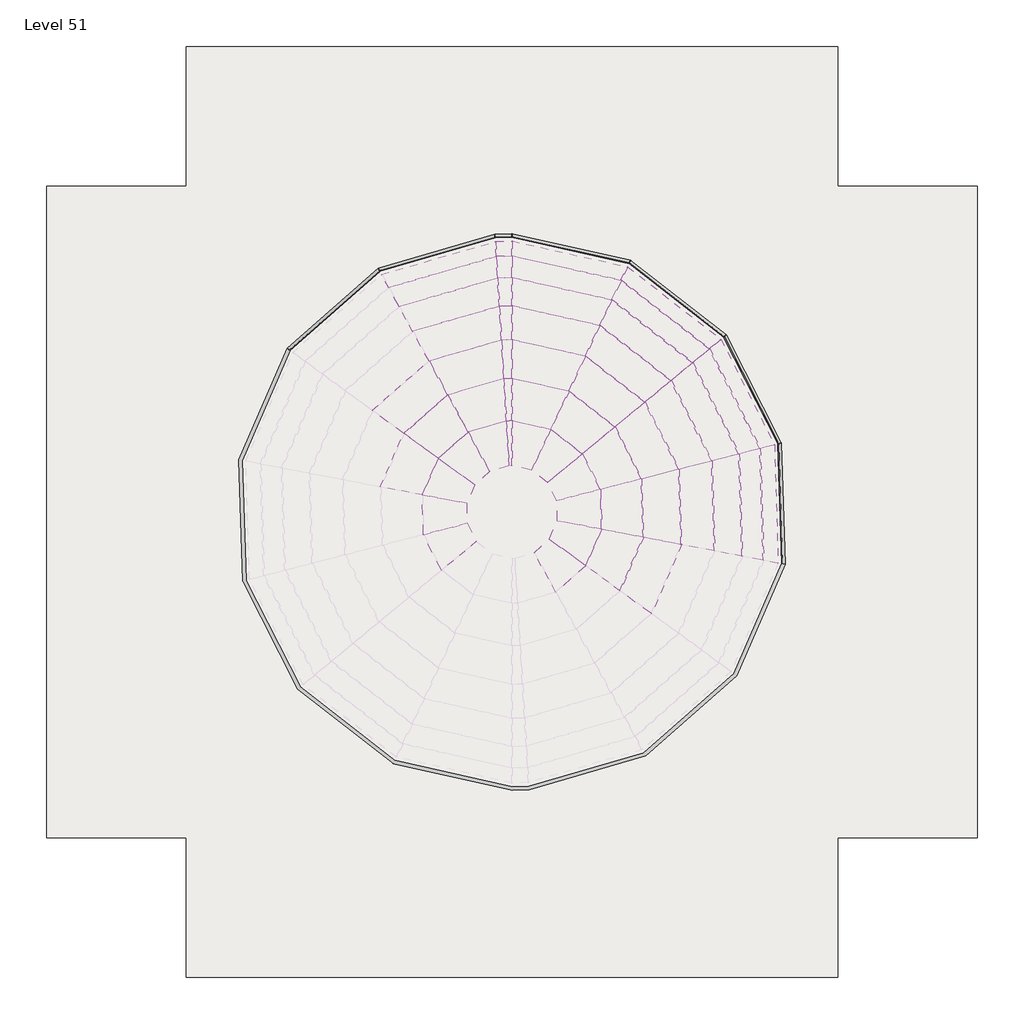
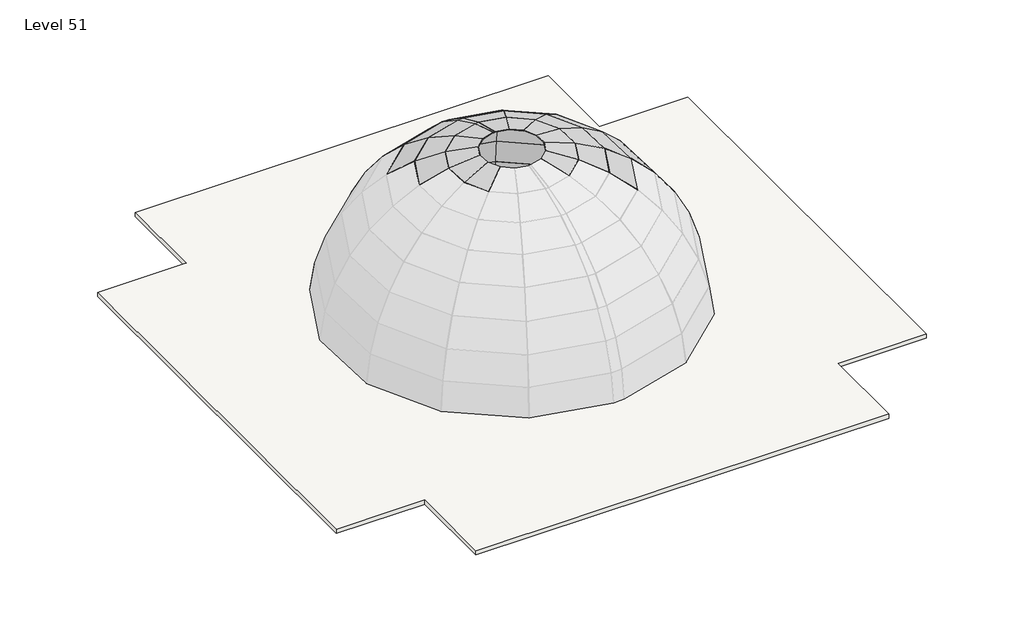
# One storey, part 2 of 2: 60 plates, 1 roof.
"""IFC4 building model written with IfcOpenShell, lengths in millimetres."""

from ifc_helpers import new_model, si_unit, frame, origin, place, context, project, spatial, polyline, outline, extrude, transform, mapped, element, save
from components import system_panel_glazed_204f7a7e, system_panel_glazed_43493433, system_panel_glazed_94d2837d, system_panel_glazed_dce3fa4b, system_panel_glazed_934d1cd6, system_panel_glazed_a686362b, system_panel_glazed_9bed2f76, system_panel_glazed_d5d8f7c1, system_panel_glazed_56061e2f, system_panel_glazed_56afd472, system_panel_glazed_cdd31af4, system_panel_glazed_3dff9bfd, system_panel_glazed_139bc032, system_panel_glazed_d13a0f6a, system_panel_glazed_7eec9ae9, system_panel_glazed_885a54fe

model = new_model("IFC4")

# Units and contexts
model_context = context("Model", 3, world=origin())
ifc_project = project(units=[si_unit("LENGTHUNIT", "METRE", prefix="MILLI")], contexts=[model_context])

# Site, building, storey
site = spatial("IfcSite", under=ifc_project)
building = spatial("IfcBuilding", under=site)
storey = spatial("IfcBuildingStorey", under=building, Name="Level 51", Elevation=152400.0)

# Plates
placement = place(None, origin())
system_panel_glazed_shape = system_panel_glazed_204f7a7e(model_context)
element("IfcPlate", 1, ObjectType="System Panel : Glazed", at=placement, inside=storey, context=model_context, shape_type="MappedRepresentation", body=[
    mapped(system_panel_glazed_shape, transform((3842.1863494, -4736.9079738, 161416.1055894), x_axis=(0.9759000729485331, -0.2182178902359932, 0.0), y_axis=(-0.055426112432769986, -0.24787311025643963, -0.9672057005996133), z_axis=(0.21106158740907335, 0.9438961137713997, -0.25399435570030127))),
])
element("IfcPlate", 2, ObjectType="System Panel : Glazed", at=placement, inside=storey, context=model_context, shape_type="MappedRepresentation", body=[
    mapped(system_panel_glazed_shape, transform((2192.2101148, -6863.0369016, 161416.1055894), x_axis=(-0.453649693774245, 0.8911800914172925, 0.0), y_axis=(0.22635471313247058, 0.11522446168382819, -0.9672057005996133), z_axis=(-0.8619544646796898, -0.4387725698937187, -0.25399435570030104))),
])
element("IfcPlate", 3, ObjectType="System Panel : Glazed", at=placement, inside=storey, context=model_context, shape_type="MappedRepresentation", body=[
    mapped(system_panel_glazed_shape, transform((2031.0744212, -6234.256918, 161416.1055894), x_axis=(-0.030875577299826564, 0.9995232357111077, 0.0), y_axis=(0.25387326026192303, 0.007842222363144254, -0.9672057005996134), z_axis=(-0.9667445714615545, -0.029863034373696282, -0.2539943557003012))),
])
element("IfcPlate", 4, ObjectType="System Panel : Glazed", at=placement, inside=storey, context=model_context, shape_type="MappedRepresentation", body=[
    mapped(system_panel_glazed_shape, transform((2153.0935149, -5596.7301967, 161416.1055894), x_axis=(0.3977796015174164, 0.9174810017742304, 0.0), y_axis=(0.23303499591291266, -0.10103377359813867, -0.9672057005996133), z_axis=(-0.8873928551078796, 0.38473469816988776, -0.25399435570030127))),
])
element("IfcPlate", 5, ObjectType="System Panel : Glazed", at=placement, inside=storey, context=model_context, shape_type="MappedRepresentation", body=[
    mapped(system_panel_glazed_shape, transform((2535.0256637, -5071.8903989, 161416.1055894), x_axis=(0.7506672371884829, 0.6606804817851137, 0.0), y_axis=(0.16780911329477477, -0.19066524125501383, -0.9672057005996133), z_axis=(-0.639013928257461, 0.7260496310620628, -0.2539943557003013))),
])
element("IfcPlate", 6, ObjectType="System Panel : Glazed", at=placement, inside=storey, context=model_context, shape_type="MappedRepresentation", body=[
    mapped(system_panel_glazed_shape, transform((3104.1218869, -4759.70701, 161416.1055894), x_axis=(0.9605706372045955, 0.27803606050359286, 0.0), y_axis=(0.07061959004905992, -0.2439795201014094, -0.9672057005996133), z_axis=(-0.26891806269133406, 0.9290693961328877, -0.25399435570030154))),
])
element("IfcPlate", 7, ObjectType="System Panel : Glazed", at=placement, inside=storey, context=model_context, shape_type="MappedRepresentation", body=[
    mapped(system_panel_glazed_shape, transform((4429.4660261, -5013.3705589, 161416.1055894), x_axis=(0.7900143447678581, -0.6130883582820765, 0.0), y_axis=(-0.1557209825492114, -0.20065918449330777, -0.9672057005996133), z_axis=(0.5929825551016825, 0.7641063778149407, -0.2539943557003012))),
])
element("IfcPlate", 8, ObjectType="System Panel : Glazed", at=placement, inside=storey, context=model_context, shape_type="MappedRepresentation", body=[
    mapped(system_panel_glazed_shape, transform((4843.0639939, -5513.6361889, 161416.1055894), x_axis=(0.4536496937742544, -0.8911800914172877, 0.0), y_axis=(-0.2263547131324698, -0.11522446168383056, -0.9672057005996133), z_axis=(0.8619544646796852, 0.4387725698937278, -0.25399435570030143))),
])
element("IfcPlate", 9, ObjectType="System Panel : Glazed", at=placement, inside=storey, context=model_context, shape_type="MappedRepresentation", body=[
    mapped(system_panel_glazed_shape, transform((5004.1996875, -6142.4161726, 161416.1055894), x_axis=(0.03087557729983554, -0.9995232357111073, 0.0), y_axis=(-0.253873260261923, -0.007842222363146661, -0.9672057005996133), z_axis=(0.966744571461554, 0.029863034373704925, -0.25399435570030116))),
])
element("IfcPlate", 10, ObjectType="System Panel : Glazed", at=placement, inside=storey, context=model_context, shape_type="MappedRepresentation", body=[
    mapped(system_panel_glazed_shape, transform((4882.1805938, -6779.9428939, 161416.1055894), x_axis=(-0.39777960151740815, -0.9174810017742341, 0.0), y_axis=(-0.23303499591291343, 0.10103377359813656, -0.9672057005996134), z_axis=(0.8873928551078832, -0.3847346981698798, -0.25399435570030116))),
])
element("IfcPlate", 11, ObjectType="System Panel : Glazed", at=placement, inside=storey, context=model_context, shape_type="MappedRepresentation", body=[
    mapped(system_panel_glazed_shape, transform((4500.2484451, -7304.7826916, 161416.1055894), x_axis=(-0.7506672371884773, -0.6606804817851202, 0.0), y_axis=(-0.16780911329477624, 0.19066524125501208, -0.9672057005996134), z_axis=(0.6390139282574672, -0.7260496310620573, -0.253994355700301))),
])
system_panel_glazed_2_shape = system_panel_glazed_43493433(model_context)
element("IfcPlate", 12, ObjectType="System Panel : Glazed", at=placement, inside=storey, context=model_context, shape_type="MappedRepresentation", body=[
    mapped(system_panel_glazed_2_shape, transform((3470.6051084, -4665.7893764, 161416.1055894), x_axis=(0.9995232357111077, 0.03087557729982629, 0.0), y_axis=(0.00766843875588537, -0.24824743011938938, -0.9686663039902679), z_axis=(-0.029908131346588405, 0.9682044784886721, -0.2483658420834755))),
])
system_panel_glazed_3_shape = system_panel_glazed_94d2837d(model_context)
element("IfcPlate", 13, ObjectType="System Panel : Glazed", at=placement, inside=storey, context=model_context, shape_type="MappedRepresentation", body=[
    mapped(system_panel_glazed_3_shape, transform((831.2673023, -5023.6442111, 161037.7653816), x_axis=(0.397779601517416, 0.9174810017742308, 0.0), y_axis=(0.3798489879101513, -0.1646858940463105, -0.9102710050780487), z_axis=(-0.835156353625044, 0.36208723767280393, -0.41401291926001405))),
])
element("IfcPlate", 14, ObjectType="System Panel : Glazed", at=placement, inside=storey, context=model_context, shape_type="MappedRepresentation", body=[
    mapped(system_panel_glazed_3_shape, transform((1583.1751324, -3990.3948376, 161037.7653816), x_axis=(0.7506672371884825, 0.6606804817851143, 0.0), y_axis=(0.2735302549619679, -0.3107859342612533, -0.9102710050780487), z_axis=(-0.6013982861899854, 0.6833106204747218, -0.4140129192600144))),
])
element("IfcPlate", 15, ObjectType="System Panel : Glazed", at=placement, inside=storey, context=model_context, shape_type="MappedRepresentation", body=[
    mapped(system_panel_glazed_3_shape, transform((2703.5519001, -3375.8010274, 161037.7653816), x_axis=(0.9605706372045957, 0.278036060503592, 0.0), y_axis=(0.1151105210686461, -0.3976886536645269, -0.9102710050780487), z_axis=(-0.2530881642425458, 0.874379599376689, -0.41401291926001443))),
])
element("IfcPlate", 16, ObjectType="System Panel : Glazed", at=placement, inside=storey, context=model_context, shape_type="MappedRepresentation", body=[
    mapped(system_panel_glazed_3_shape, transform((4156.5755594, -3330.9166838, 161037.7653816), x_axis=(0.9759000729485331, -0.21821789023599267, 0.0), y_axis=(-0.09034502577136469, -0.40403523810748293, -0.9102710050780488), z_axis=(0.19863741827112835, 0.8883335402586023, -0.4140129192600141))),
])
element("IfcPlate", 17, ObjectType="System Panel : Glazed", at=placement, inside=storey, context=model_context, shape_type="MappedRepresentation", body=[
    mapped(system_panel_glazed_3_shape, transform((5312.7499971, -3875.1871336, 161037.7653816), x_axis=(0.7900143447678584, -0.6130883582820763, 0.0), y_axis=(-0.2538265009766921, -0.32707614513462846, -0.9102710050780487), z_axis=(0.5580765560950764, 0.7191271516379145, -0.41401291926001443))),
])
element("IfcPlate", 18, ObjectType="System Panel : Glazed", at=placement, inside=storey, context=model_context, shape_type="MappedRepresentation", body=[
    mapped(system_panel_glazed_3_shape, transform((6126.99816, -4860.0574714, 161037.7653816), x_axis=(0.4536496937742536, -0.8911800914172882, 0.0), y_axis=(-0.36896007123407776, -0.18781683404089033, -0.9102710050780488), z_axis=(0.8112153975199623, 0.41294416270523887, -0.41401291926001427))),
])
element("IfcPlate", 19, ObjectType="System Panel : Glazed", at=placement, inside=storey, context=model_context, shape_type="MappedRepresentation", body=[
    mapped(system_panel_glazed_3_shape, transform((6444.2251599, -6097.933347, 161037.7653816), x_axis=(0.030875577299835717, -0.9995232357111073, 0.0), y_axis=(-0.41381553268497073, -0.012782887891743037, -0.9102710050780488), z_axis=(0.9098370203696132, 0.02810514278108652, -0.4140129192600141))),
])
element("IfcPlate", 20, ObjectType="System Panel : Glazed", at=placement, inside=storey, context=model_context, shape_type="MappedRepresentation", body=[
    mapped(system_panel_glazed_3_shape, transform((6204.0068064, -7353.0288794, 161037.7653816), x_axis=(-0.39777960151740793, -0.9174810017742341, 0.0), y_axis=(-0.3798489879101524, 0.1646858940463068, -0.910271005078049), z_axis=(0.8351563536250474, -0.3620872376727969, -0.4140129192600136))),
])
system_panel_glazed_4_shape = system_panel_glazed_dce3fa4b(model_context)
element("IfcPlate", 21, ObjectType="System Panel : Glazed", at=placement, inside=storey, context=model_context, shape_type="MappedRepresentation", body=[
    mapped(system_panel_glazed_4_shape, transform((3425.0455076, -3190.9058718, 161037.7653816), x_axis=(0.9995232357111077, 0.03087557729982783, 0.0), y_axis=(0.01253103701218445, -0.40566246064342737, -0.9139370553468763), z_axis=(-0.028218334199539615, 0.9135013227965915, -0.4058559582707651))),
])
system_panel_glazed_5_shape = system_panel_glazed_934d1cd6(model_context)
element("IfcPlate", 22, ObjectType="System Panel : Glazed", at=placement, inside=storey, context=model_context, shape_type="MappedRepresentation", body=[
    mapped(system_panel_glazed_5_shape, transform((685.0596546, -2969.9532126, 160419.4872466), x_axis=(0.7506672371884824, 0.6606804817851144, 0.0), y_axis=(0.37079761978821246, -0.4213014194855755, -0.8276558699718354), z_axis=(-0.54681607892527, 0.6212941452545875, -0.5612359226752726))),
])
element("IfcPlate", 23, ObjectType="System Panel : Glazed", at=placement, inside=storey, context=model_context, shape_type="MappedRepresentation", body=[
    mapped(system_panel_glazed_5_shape, transform((2325.5953897, -2070.0210314, 160419.4872466), x_axis=(0.9605706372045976, 0.2780360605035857, 0.0), y_axis=(0.15604382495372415, -0.5391067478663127, -0.8276558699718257), z_axis=(-0.23011817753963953, 0.7950219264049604, -0.5612359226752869))),
])
element("IfcPlate", 24, ObjectType="System Panel : Glazed", at=placement, inside=storey, context=model_context, shape_type="MappedRepresentation", body=[
    mapped(system_panel_glazed_5_shape, transform((4453.2164776, -2004.2981677, 160419.4872466), x_axis=(0.9759000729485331, -0.21821789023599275, 0.0), y_axis=(-0.12247171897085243, -0.5477101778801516, -0.8276558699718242), z_axis=(0.18060931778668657, 0.8077094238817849, -0.561235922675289))),
])
element("IfcPlate", 25, ObjectType="System Panel : Glazed", at=placement, inside=storey, context=model_context, shape_type="MappedRepresentation", body=[
    mapped(system_panel_glazed_5_shape, transform((6146.1697197, -2801.2578587, 160419.4872466), x_axis=(0.7900143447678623, -0.6130883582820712, 0.0), y_axis=(-0.34408721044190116, -0.4433844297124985, -0.8276558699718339), z_axis=(0.5074261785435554, 0.6538600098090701, -0.5612359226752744))),
])
element("IfcPlate", 26, ObjectType="System Panel : Glazed", at=placement, inside=storey, context=model_context, shape_type="MappedRepresentation", body=[
    mapped(system_panel_glazed_5_shape, transform((7338.4500732, -4243.3753947, 160419.4872466), x_axis=(0.45364969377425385, -0.891180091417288, 0.0), y_axis=(-0.5001622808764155, -0.25460450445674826, -0.8276558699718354), z_axis=(0.7375904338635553, 0.3754658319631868, -0.5612359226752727))),
])
element("IfcPlate", 27, ObjectType="System Panel : Glazed", at=placement, inside=storey, context=model_context, shape_type="MappedRepresentation", body=[
    mapped(system_panel_glazed_5_shape, transform((7802.9565183, -6055.9617213, 160419.4872466), x_axis=(0.030875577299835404, -0.9995232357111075, 0.0), y_axis=(-0.5609683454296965, -0.017328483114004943, -0.8276558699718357), z_axis=(0.8272612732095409, 0.025554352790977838, -0.5612359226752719))),
])
element("IfcPlate", 28, ObjectType="System Panel : Glazed", at=placement, inside=storey, context=model_context, shape_type="MappedRepresentation", body=[
    mapped(system_panel_glazed_5_shape, transform((7451.211637, -7893.7623001, 160419.4872466), x_axis=(-0.39777960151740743, -0.9174810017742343, 0.0), y_axis=(-0.5149232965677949, 0.22324820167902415, -0.8276558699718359), z_axis=(0.7593585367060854, -0.32922462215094, -0.5612359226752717))),
])
system_panel_glazed_6_shape = system_panel_glazed_a686362b(model_context)
element("IfcPlate", 29, ObjectType="System Panel : Glazed", at=placement, inside=storey, context=model_context, shape_type="MappedRepresentation", body=[
    mapped(system_panel_glazed_6_shape, transform((3382.0578941, -1799.2843304, 160419.4872466), x_axis=(0.9995232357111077, 0.030875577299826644, 0.0), y_axis=(0.017044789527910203, -0.5517844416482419, -0.8338125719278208), z_axis=(-0.02574444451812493, 0.833415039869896, -0.5520476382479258))),
])
system_panel_glazed_7_shape = system_panel_glazed_9bed2f76(model_context)
element("IfcPlate", 30, ObjectType="System Panel : Glazed", at=placement, inside=storey, context=model_context, shape_type="MappedRepresentation", body=[
    mapped(system_panel_glazed_7_shape, transform((1980.7511478, -878.6386886, 159578.4455769), x_axis=(0.9605706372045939, 0.27803606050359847, 0.0), y_axis=(0.19227670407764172, -0.6642856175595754, -0.7223256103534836), z_axis=(-0.20083256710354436, 0.6938447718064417, -0.6915531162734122))),
])
element("IfcPlate", 31, ObjectType="System Panel : Glazed", at=placement, inside=storey, context=model_context, shape_type="MappedRepresentation", body=[
    mapped(system_panel_glazed_7_shape, transform((4723.8690785, -793.9029399, 159578.4455769), x_axis=(0.9759000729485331, -0.21821789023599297, 0.0), y_axis=(-0.15090926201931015, -0.6748867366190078, -0.7223256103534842), z_axis=(0.1576243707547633, 0.7049176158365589, -0.6915531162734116))),
])
element("IfcPlate", 32, ObjectType="System Panel : Glazed", at=placement, inside=storey, context=model_context, shape_type="MappedRepresentation", body=[
    mapped(system_panel_glazed_7_shape, transform((6906.5746461, -1821.4141028, 159578.4455769), x_axis=(0.7900143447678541, -0.6130883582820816, 0.0), y_axis=(-0.4239831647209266, -0.5463368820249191, -0.722325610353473), z_axis=(0.4428494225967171, 0.5706475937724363, -0.6915531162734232))),
])
element("IfcPlate", 33, ObjectType="System Panel : Glazed", at=placement, inside=storey, context=model_context, shape_type="MappedRepresentation", body=[
    mapped(system_panel_glazed_7_shape, transform((8443.7682914, -3680.7200167, 159578.4455769), x_axis=(0.45364969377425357, -0.8911800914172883, 0.0), y_axis=(-0.6162983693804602, -0.31372285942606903, -0.7223256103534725), z_axis=(0.643722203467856, 0.32768279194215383, -0.6915531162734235))),
])
element("IfcPlate", 34, ObjectType="System Panel : Glazed", at=placement, inside=storey, context=model_context, shape_type="MappedRepresentation", body=[
    mapped(system_panel_glazed_7_shape, transform((9042.6512249, -6017.6671741, 159578.4455769), x_axis=(0.030875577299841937, -0.9995232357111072, 0.0), y_axis=(-0.6912234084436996, -0.021352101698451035, -0.7223256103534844), z_axis=(0.7219812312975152, 0.02230222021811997, -0.6915531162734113))),
])
system_panel_glazed_8_shape = system_panel_glazed_d5d8f7c1(model_context)
element("IfcPlate", 35, ObjectType="System Panel : Glazed", at=placement, inside=storey, context=model_context, shape_type="MappedRepresentation", body=[
    mapped(system_panel_glazed_8_shape, transform((3342.8363685, -529.5809061, 159578.4455769), x_axis=(0.9995232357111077, 0.03087557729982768, 0.0), y_axis=(0.021084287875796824, -0.6825535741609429, -0.7305313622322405), z_axis=(-0.022555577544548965, 0.7301830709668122, -0.6828791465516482))),
])
system_panel_glazed_9_shape = system_panel_glazed_56061e2f(model_context)
element("IfcPlate", 36, ObjectType="System Panel : Glazed", at=placement, inside=storey, context=model_context, shape_type="MappedRepresentation", body=[
    mapped(system_panel_glazed_9_shape, transform((1678.5981812, 165.2520471, 158538.0026411), x_axis=(0.9605706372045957, 0.2780360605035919, 0.0), y_axis=(0.22288742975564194, -0.7700408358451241, -0.5977945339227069), z_axis=(-0.1662084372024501, 0.5742238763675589, -0.8016493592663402))),
])
element("IfcPlate", 37, ObjectType="System Panel : Glazed", at=placement, inside=storey, context=model_context, shape_type="MappedRepresentation", body=[
    mapped(system_panel_glazed_9_shape, transform((4961.0152343, 266.64691, 158538.0026411), x_axis=(0.9759000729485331, -0.21821789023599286, 0.0), y_axis=(-0.17493423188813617, -0.7823296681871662, -0.5977945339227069), z_axis=(0.13044946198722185, 0.583387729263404, -0.8016493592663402))),
])
element("IfcPlate", 38, ObjectType="System Panel : Glazed", at=placement, inside=storey, context=model_context, shape_type="MappedRepresentation", body=[
    mapped(system_panel_glazed_9_shape, transform((7572.8424171, -962.8737481, 158538.0026411), x_axis=(0.7900143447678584, -0.6130883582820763, 0.0), y_axis=(-0.491481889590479, -0.6333144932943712, -0.5977945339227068), z_axis=(0.3665008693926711, 0.4722662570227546, -0.8016493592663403))),
])
element("IfcPlate", 39, ObjectType="System Panel : Glazed", at=placement, inside=storey, context=model_context, shape_type="MappedRepresentation", body=[
    mapped(system_panel_glazed_9_shape, transform((9412.2495308, -3187.7206534, 158538.0026411), x_axis=(0.453649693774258, -0.8911800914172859, 0.0), y_axis=(-0.714413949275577, -0.3636679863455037, -0.5977945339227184), z_axis=(0.5327425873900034, 0.27118930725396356, -0.8016493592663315))),
])
element("IfcPlate", 40, ObjectType="System Panel : Glazed", at=placement, inside=storey, context=model_context, shape_type="MappedRepresentation", body=[
    mapped(system_panel_glazed_9_shape, transform((10128.8733157, -5984.1134428, 158538.0026411), x_axis=(0.030875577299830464, -0.9995232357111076, 0.0), y_axis=(-0.8012671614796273, -0.024751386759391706, -0.5977945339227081), z_axis=(0.5975095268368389, 0.018457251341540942, -0.8016493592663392))),
])
system_panel_glazed_10_shape = system_panel_glazed_56afd472(model_context)
element("IfcPlate", 41, ObjectType="System Panel : Glazed", at=placement, inside=storey, context=model_context, shape_type="MappedRepresentation", body=[
    mapped(system_panel_glazed_10_shape, transform((3308.4704174, 582.9348616, 158538.0026411), x_axis=(0.9995232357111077, 0.030875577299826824, 0.0), y_axis=(0.024537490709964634, -0.7943427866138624, -0.6069740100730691), z_axis=(-0.01874067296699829, 0.6066846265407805, -0.794721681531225))),
])
system_panel_glazed_11_shape = system_panel_glazed_cdd31af4(model_context)
element("IfcPlate", 42, ObjectType="System Panel : Glazed", at=placement, inside=storey, context=model_context, shape_type="MappedRepresentation", body=[
    mapped(system_panel_glazed_11_shape, transform((1427.5296276, 1032.6542108, 157327.0596321), x_axis=(0.9605706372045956, 0.27803606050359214, 0.0), y_axis=(0.24717695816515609, -0.8539573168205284, -0.4578869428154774), z_axis=(-0.12730908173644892, 0.4398327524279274, -0.889010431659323))),
])
element("IfcPlate", 43, ObjectType="System Panel : Glazed", at=placement, inside=storey, context=model_context, shape_type="MappedRepresentation", body=[
    mapped(system_panel_glazed_11_shape, transform((5158.0675518, 1147.8916639, 157327.0596321), x_axis=(0.9759000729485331, -0.218217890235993, 0.0), y_axis=(-0.19399798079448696, -0.8675853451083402, -0.4578869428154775), z_axis=(0.09991912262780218, 0.4468519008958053, -0.889010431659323))),
])
element("IfcPlate", 44, ObjectType="System Panel : Glazed", at=placement, inside=storey, context=model_context, shape_type="MappedRepresentation", body=[
    mapped(system_panel_glazed_11_shape, transform((8126.4655947, -249.4851378, 157327.0596321), x_axis=(0.7900143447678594, -0.6130883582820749, 0.0), y_axis=(-0.5450419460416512, -0.7023309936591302, -0.45788694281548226), z_axis=(0.28072515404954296, 0.36173725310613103, -0.8890104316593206))),
])
element("IfcPlate", 45, ObjectType="System Panel : Glazed", at=placement, inside=storey, context=model_context, shape_type="MappedRepresentation", body=[
    mapped(system_panel_glazed_11_shape, transform((10216.9915348, -2778.0717315, 157327.0596321), x_axis=(0.45364969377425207, -0.8911800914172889, 0.0), y_axis=(-0.7922683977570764, -0.403299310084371, -0.4578869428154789), z_axis=(0.4080597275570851, 0.20772027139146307, -0.8890104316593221))),
])
element("IfcPlate", 46, ObjectType="System Panel : Glazed", at=placement, inside=storey, context=model_context, shape_type="MappedRepresentation", body=[
    mapped(system_panel_glazed_11_shape, transform((11031.4499547, -5956.2325754, 157327.0596321), x_axis=(0.03087557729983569, -0.9995232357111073, 0.0), y_axis=(-0.8885865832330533, -0.02744871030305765, -0.4578869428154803), z_axis=(0.45766863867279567, 0.014137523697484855, -0.8890104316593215))),
])
system_panel_glazed_12_shape = system_panel_glazed_3dff9bfd(model_context)
element("IfcPlate", 47, ObjectType="System Panel : Glazed", at=placement, inside=storey, context=model_context, shape_type="MappedRepresentation", body=[
    mapped(system_panel_glazed_12_shape, transform((3279.9146508, 1507.3597569, 157327.0596321), x_axis=(0.9995232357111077, 0.030875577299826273, 0.0), y_axis=(0.027308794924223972, -0.884057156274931, -0.466580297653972), z_axis=(-0.0144059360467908, 0.46635784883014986, -0.8844788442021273))),
])
system_panel_glazed_13_shape = system_panel_glazed_139bc032(model_context)
element("IfcPlate", 48, ObjectType="System Panel : Glazed", at=placement, inside=storey, context=model_context, shape_type="MappedRepresentation", body=[
    mapped(system_panel_glazed_13_shape, transform((1234.5196137, 1699.4732979, 155979.2538554), x_axis=(0.9605706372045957, 0.2780360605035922, 0.0), y_axis=(0.2646497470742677, -0.914323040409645, -0.3065516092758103), z_axis=(-0.08523240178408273, 0.2944644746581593, -0.9518540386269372))),
])
element("IfcPlate", 49, ObjectType="System Panel : Glazed", at=placement, inside=storey, context=model_context, shape_type="MappedRepresentation", body=[
    mapped(system_panel_glazed_13_shape, transform((5309.5523554, 1825.3523009, 155979.2538554), x_axis=(0.9759000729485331, -0.21821789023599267, 0.0), y_axis=(-0.20771158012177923, -0.9289144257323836, -0.30655160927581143), z_axis=(0.06689504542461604, 0.2991637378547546, -0.951854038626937))),
])
element("IfcPlate", 50, ObjectType="System Panel : Glazed", at=placement, inside=storey, context=model_context, shape_type="MappedRepresentation", body=[
    mapped(system_panel_glazed_13_shape, transform((8552.0657574, 298.9353779, 155979.2538554), x_axis=(0.7900143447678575, -0.6130883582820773, 0.0), y_axis=(-0.5835706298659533, -0.7519783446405, -0.3065516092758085), z_axis=(0.1879432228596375, 0.24218016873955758, -0.9518540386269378))),
])
element("IfcPlate", 51, ObjectType="System Panel : Glazed", at=placement, inside=storey, context=model_context, shape_type="MappedRepresentation", body=[
    mapped(system_panel_glazed_13_shape, transform((10835.6403587, -2463.1523877, 155979.2538554), x_axis=(0.45364969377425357, -0.8911800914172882, 0.0), y_axis=(-0.8482733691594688, -0.43180829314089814, -0.3065516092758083), z_axis=(0.27319269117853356, 0.13906704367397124, -0.9518540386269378))),
])
element("IfcPlate", 52, ObjectType="System Panel : Glazed", at=placement, inside=storey, context=model_context, shape_type="MappedRepresentation", body=[
    mapped(system_panel_glazed_13_shape, transform((11725.3095688, -5934.7990405, 155979.2538554), x_axis=(0.030875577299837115, -0.9995232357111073, 0.0), y_axis=(-0.9514002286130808, -0.029389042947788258, -0.30655160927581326), z_axis=(0.3064054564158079, 0.009464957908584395, -0.9518540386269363))),
])
system_panel_glazed_14_shape = system_panel_glazed_d13a0f6a(model_context)
element("IfcPlate", 53, ObjectType="System Panel : Glazed", at=placement, inside=storey, context=model_context, shape_type="MappedRepresentation", body=[
    mapped(system_panel_glazed_14_shape, transform((3257.9622842, 2218.0153105, 155979.2538554), x_axis=(0.9995232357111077, 0.030875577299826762, 0.0), y_axis=(0.029321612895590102, -0.9492173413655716, -0.3132517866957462), z_axis=(-0.009671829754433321, 0.313102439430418, -0.9496701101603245))),
])
system_panel_glazed_15_shape = system_panel_glazed_7eec9ae9(model_context)
element("IfcPlate", 54, ObjectType="System Panel : Glazed", at=placement, inside=storey, context=model_context, shape_type="MappedRepresentation", body=[
    mapped(system_panel_glazed_15_shape, transform((-2215.5357132, 325.7123488, 154532.0243606), x_axis=(0.7506672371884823, 0.6606804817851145, 0.0), y_axis=(0.6534295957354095, -0.7424287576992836, -0.14774743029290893), z_axis=(-0.09761384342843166, 0.11090915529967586, -0.9890251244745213))),
])
element("IfcPlate", 55, ObjectType="System Panel : Glazed", at=placement, inside=storey, context=model_context, shape_type="MappedRepresentation", body=[
    mapped(system_panel_glazed_15_shape, transform((1104.9295287, 2147.1865561, 154532.0243606), x_axis=(0.9605706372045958, 0.27803606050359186, 0.0), y_axis=(0.27498464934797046, -0.9500284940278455, -0.1477474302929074), z_axis=(-0.04107911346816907, 0.14192184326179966, -0.9890251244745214))),
])
element("IfcPlate", 56, ObjectType="System Panel : Glazed", at=placement, inside=storey, context=model_context, shape_type="MappedRepresentation", body=[
    mapped(system_panel_glazed_15_shape, transform((5411.261734, 2280.21047, 154532.0243606), x_axis=(0.9759000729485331, -0.218217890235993, 0.0), y_axis=(-0.21582297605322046, -0.9651896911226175, -0.1477474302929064), z_axis=(0.03224113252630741, 0.14418672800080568, -0.9890251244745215))),
])
element("IfcPlate", 57, ObjectType="System Panel : Glazed", at=placement, inside=storey, context=model_context, shape_type="MappedRepresentation", body=[
    mapped(system_panel_glazed_15_shape, transform((8837.8206782, 667.1538957, 154532.0243606), x_axis=(0.7900143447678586, -0.6130883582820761, 0.0), y_axis=(-0.6063597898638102, -0.7813440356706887, -0.1477474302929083), z_axis=(0.09058222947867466, 0.11672258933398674, -0.9890251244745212))),
])
element("IfcPlate", 58, ObjectType="System Panel : Glazed", at=placement, inside=storey, context=model_context, shape_type="MappedRepresentation", body=[
    mapped(system_panel_glazed_15_shape, transform((11251.0113131, -2251.7103817, 154532.0243606), x_axis=(0.45364969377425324, -0.8911800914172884, 0.0), y_axis=(-0.8813995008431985, -0.4486709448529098, -0.14774743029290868), z_axis=(0.13166956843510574, 0.06702557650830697, -0.9890251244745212))),
])
element("IfcPlate", 59, ObjectType="System Panel : Glazed", at=placement, inside=storey, context=model_context, shape_type="MappedRepresentation", body=[
    mapped(system_panel_glazed_15_shape, transform((12191.1782796, -5920.408214, 154532.0243606), x_axis=(0.030875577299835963, -0.9995232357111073, 0.0), y_axis=(-0.9885535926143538, -0.030536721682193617, -0.1477474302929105), z_axis=(0.1476769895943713, 0.004561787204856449, -0.989025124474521))),
])
system_panel_glazed_16_shape = system_panel_glazed_885a54fe(model_context)
element("IfcPlate", 60, ObjectType="System Panel : Glazed", at=placement, inside=storey, context=model_context, shape_type="MappedRepresentation", body=[
    mapped(system_panel_glazed_16_shape, transform((3243.2231057, 2695.1610903, 154532.0243606), x_axis=(0.9995232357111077, 0.030875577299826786, 0.0), y_axis=(0.030520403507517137, -0.9880253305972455, -0.15124301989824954), z_axis=(-0.004669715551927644, 0.1511709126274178, -0.9884966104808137))),
])

# Roof
element("IfcRoof", 61, ObjectType="Generic - 9\"", at=placement, inside=storey, context=model_context, shape_type="SweptSolid", body=[
    extrude(outline(polyline([(-7150.3629456, 4479.6634547), (-7150.3629456, 9051.6634547), (14185.6370544, 9051.6634547), (14185.6370544, 4479.6634547), (18757.6370544, 4479.6634547), (18757.6370544, -16856.3365453), (14185.6370544, -16856.3365453), (14185.6370544, -21428.3365453), (-7150.3629456, -21428.3365453), (-7150.3629456, -16856.3365453), (-11722.3629456, -16856.3365453), (-11722.3629456, 4479.6634547), (-7150.3629456, 4479.6634547)])), frame((0.0, 0.0, 152171.4), z_axis=(0.0, 0.0, 1.0), x_axis=(1.0, 0.0, 0.0)), (0.0, 0.0, 1.0), 228.6),
])

save(model, "model.ifc")
